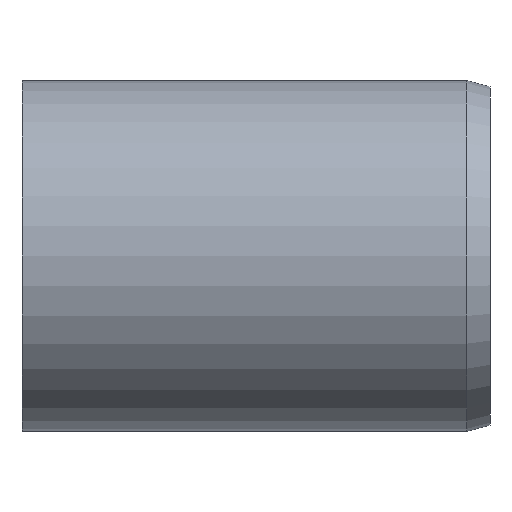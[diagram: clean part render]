
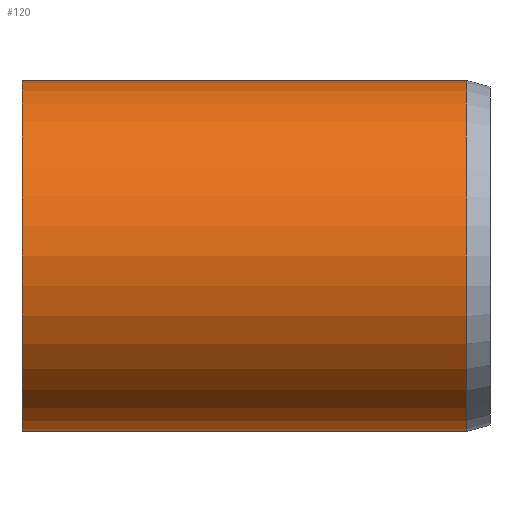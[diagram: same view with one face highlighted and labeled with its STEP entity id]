
A CAD part, front view. The second image highlights one B-rep face of the part: STEP entity #120.
In plain terms, the highlighted cylindrical face has radius 30 mm (diameter 60 mm), a full revolution.
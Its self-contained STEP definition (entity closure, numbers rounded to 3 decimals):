
#20=LINE('',#229,#23);
#23=VECTOR('',#197,30.);
#26=CYLINDRICAL_SURFACE('',#157,30.);
#32=FACE_OUTER_BOUND('',#41,.T.);
#41=EDGE_LOOP('',(#97,#98,#99,#100));
#49=CIRCLE('',#151,30.);
#53=CIRCLE('',#158,30.);
#59=VERTEX_POINT('',#217);
#62=VERTEX_POINT('',#227);
#70=EDGE_CURVE('',#59,#59,#49,.T.);
#74=EDGE_CURVE('',#62,#62,#53,.T.);
#75=EDGE_CURVE('',#62,#59,#20,.T.);
#97=ORIENTED_EDGE('',*,*,#74,.F.);
#98=ORIENTED_EDGE('',*,*,#75,.T.);
#99=ORIENTED_EDGE('',*,*,#70,.T.);
#100=ORIENTED_EDGE('',*,*,#75,.F.);
#120=ADVANCED_FACE('',(#32),#26,.T.);
#151=AXIS2_PLACEMENT_3D('',#218,#181,#182);
#157=AXIS2_PLACEMENT_3D('',#226,#193,#194);
#158=AXIS2_PLACEMENT_3D('',#228,#195,#196);
#181=DIRECTION('center_axis',(1.,0.,0.));
#182=DIRECTION('ref_axis',(0.,0.,-1.));
#193=DIRECTION('center_axis',(1.,0.,0.));
#194=DIRECTION('ref_axis',(0.,1.,0.));
#195=DIRECTION('center_axis',(1.,0.,0.));
#196=DIRECTION('ref_axis',(0.,0.,-1.));
#197=DIRECTION('',(-1.,0.,0.));
#217=CARTESIAN_POINT('',(0.,-30.,0.));
#218=CARTESIAN_POINT('Origin',(0.,0.,0.));
#226=CARTESIAN_POINT('Origin',(38.,0.,0.));
#227=CARTESIAN_POINT('',(76.,-30.,0.));
#228=CARTESIAN_POINT('Origin',(76.,0.,0.));
#229=CARTESIAN_POINT('',(38.,-30.,0.));
